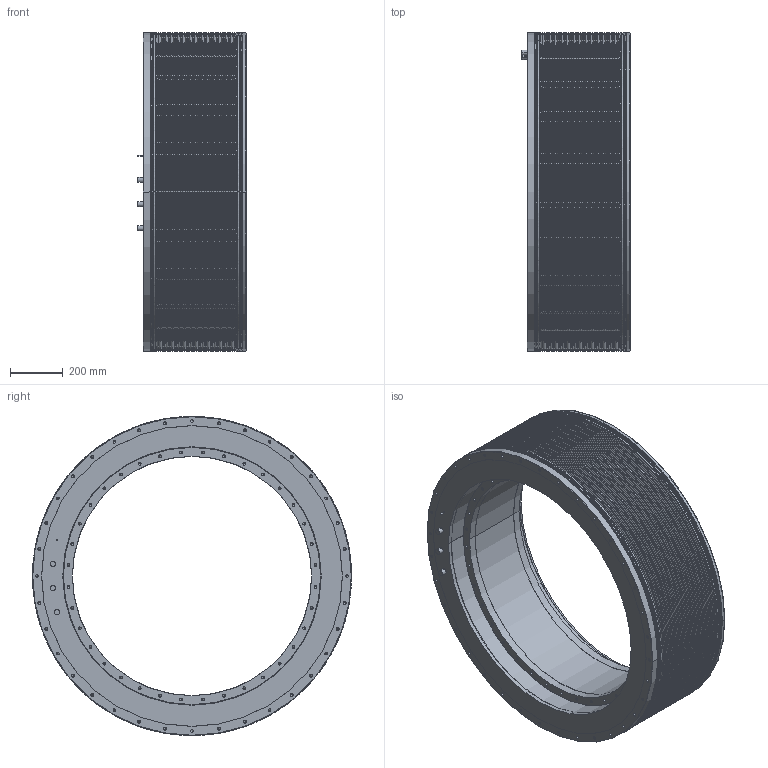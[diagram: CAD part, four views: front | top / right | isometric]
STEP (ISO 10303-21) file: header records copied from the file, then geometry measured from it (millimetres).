
FILE_DESCRIPTION((''),'2;1');
FILE_NAME('TK1150-250','2017-10-26T',('stefanos'),(''),'CREO PARAMETRIC BY PTC INC, 2015480','CREO PARAMETRIC BY PTC INC, 2015480','');
FILE_SCHEMA(('CONFIG_CONTROL_DESIGN'));
Length unit declared in the file: millimetre
Products named in the file (1): TK1150-250
Bounding box: 410 x 1210 x 1210 mm (x, y, z)
Volume: 177804556.1 mm3; surface area: 12121059 mm2
Topology: 9 solids, 9 shells, 871 faces, 1958 edges, 1016 vertices
Faces by surface type: cone 420, cylinder 382, plane 37, torus 16, revolution 16
Entity records: 23894 total; most frequent: CARTESIAN_POINT 5133, DIRECTION 4344, ORIENTED_EDGE 3484, AXIS2_PLACEMENT_3D 1763, EDGE_CURVE 1742, VERTEX_POINT 1016, EDGE_LOOP 1016, CIRCLE 908
